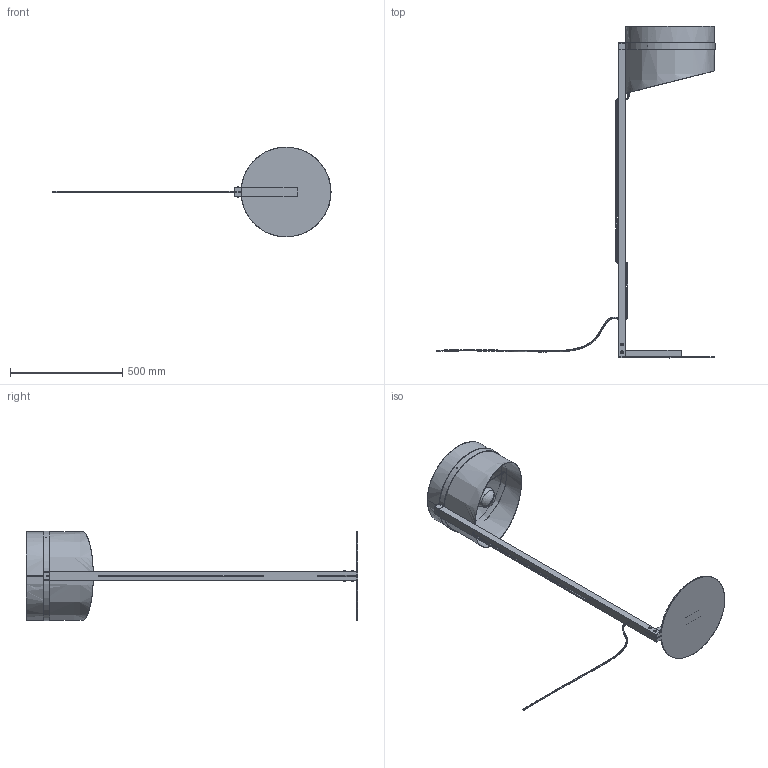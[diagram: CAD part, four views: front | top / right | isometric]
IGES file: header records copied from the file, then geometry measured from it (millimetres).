
Start section: SolidWorks IGES file using analytic representation for surfaces
Global section: file name: E:\_DESIGN\Emy\EMY pod³ogowa_6917\EMY pod³ogowa_6917.IGS; native system: SolidWorks 2016; preprocessor: SolidWorks 2016; author: Asia; date: 160707.142330; units: millimetre
Bounding box: 1240.61 x 1480.5 x 400 mm (x, y, z)
Surface area: 1339711.6 mm2 (no closed solid volume)
Topology: 0 solids, 0 shells, 474 faces, 7156 edges, 7147 vertices
Faces by surface type: revolution 242, bspline 232
